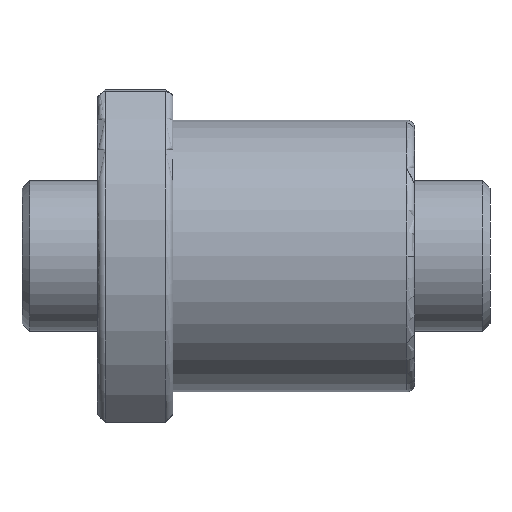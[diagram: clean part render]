
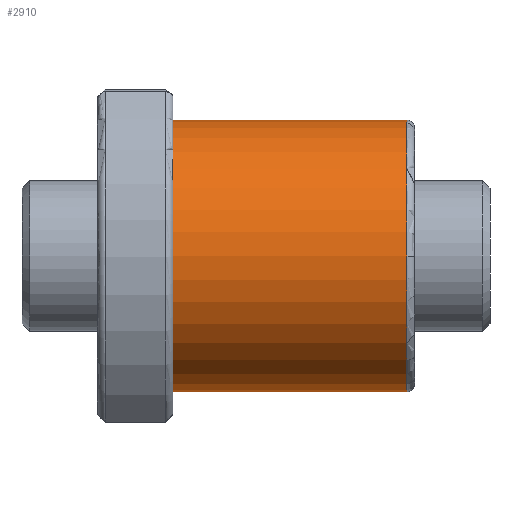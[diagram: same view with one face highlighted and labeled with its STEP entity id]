
A CAD part, front view. The second image highlights one B-rep face of the part: STEP entity #2910.
In plain terms, the highlighted cylindrical face has radius 18 mm (diameter 36 mm), a partial arc.
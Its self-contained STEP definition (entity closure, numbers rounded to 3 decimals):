
#36 = CARTESIAN_POINT ( 'NONE',  ( 10., 0., 0. ) ) ;
#42 = AXIS2_PLACEMENT_3D ( 'NONE', #1289, #401, #5012 ) ;
#147 = CIRCLE ( 'NONE', #4001, 18. ) ;
#190 = CARTESIAN_POINT ( 'NONE',  ( 41., 0., 18. ) ) ;
#276 = ORIENTED_EDGE ( 'NONE', *, *, #440, .T. ) ;
#401 = DIRECTION ( 'NONE',  ( -1., 0., 0. ) ) ;
#440 = EDGE_CURVE ( 'NONE', #3884, #3655, #3806, .T. ) ;
#486 = CARTESIAN_POINT ( 'NONE',  ( 42., 0., 0. ) ) ;
#550 = ORIENTED_EDGE ( 'NONE', *, *, #4850, .T. ) ;
#771 = CIRCLE ( 'NONE', #2482, 18. ) ;
#1049 = DIRECTION ( 'NONE',  ( -1., 0., 0. ) ) ;
#1208 = VECTOR ( 'NONE', #3209, 1000. ) ;
#1235 = AXIS2_PLACEMENT_3D ( 'NONE', #486, #4600, #5020 ) ;
#1289 = CARTESIAN_POINT ( 'NONE',  ( 41., 0., 0. ) ) ;
#1366 = EDGE_CURVE ( 'NONE', #3655, #2216, #147, .T. ) ;
#1560 = CARTESIAN_POINT ( 'NONE',  ( 42., 0., -18. ) ) ;
#2028 = VERTEX_POINT ( 'NONE', #3096 ) ;
#2171 = CIRCLE ( 'NONE', #42, 18. ) ;
#2216 = VERTEX_POINT ( 'NONE', #4798 ) ;
#2314 = CYLINDRICAL_SURFACE ( 'NONE', #1235, 18. ) ;
#2482 = AXIS2_PLACEMENT_3D ( 'NONE', #3508, #1049, #5142 ) ;
#2513 = DIRECTION ( 'NONE',  ( 1., 0., 0. ) ) ;
#2539 = CARTESIAN_POINT ( 'NONE',  ( 42., 0., 18. ) ) ;
#2731 = VECTOR ( 'NONE', #4107, 1000. ) ;
#2910 = ADVANCED_FACE ( 'NONE', ( #4564 ), #2314, .T. ) ;
#2991 = ORIENTED_EDGE ( 'NONE', *, *, #3357, .T. ) ;
#3096 = CARTESIAN_POINT ( 'NONE',  ( 41., -18., 0. ) ) ;
#3209 = DIRECTION ( 'NONE',  ( -1., 0., 0. ) ) ;
#3357 = EDGE_CURVE ( 'NONE', #2028, #3884, #771, .T. ) ;
#3508 = CARTESIAN_POINT ( 'NONE',  ( 41., 0., 0. ) ) ;
#3521 = EDGE_LOOP ( 'NONE', ( #4463, #550, #2991, #276, #4139 ) ) ;
#3655 = VERTEX_POINT ( 'NONE', #4944 ) ;
#3806 = LINE ( 'NONE', #2539, #2731 ) ;
#3884 = VERTEX_POINT ( 'NONE', #190 ) ;
#3939 = CARTESIAN_POINT ( 'NONE',  ( 41., 0., -18. ) ) ;
#4001 = AXIS2_PLACEMENT_3D ( 'NONE', #36, #2513, #4145 ) ;
#4107 = DIRECTION ( 'NONE',  ( -1., 0., 0. ) ) ;
#4139 = ORIENTED_EDGE ( 'NONE', *, *, #1366, .T. ) ;
#4145 = DIRECTION ( 'NONE',  ( 0., 0., 1. ) ) ;
#4463 = ORIENTED_EDGE ( 'NONE', *, *, #5135, .F. ) ;
#4481 = LINE ( 'NONE', #1560, #1208 ) ;
#4564 = FACE_OUTER_BOUND ( 'NONE', #3521, .T. ) ;
#4600 = DIRECTION ( 'NONE',  ( -1., 0., 0. ) ) ;
#4656 = VERTEX_POINT ( 'NONE', #3939 ) ;
#4798 = CARTESIAN_POINT ( 'NONE',  ( 10., 0., -18. ) ) ;
#4850 = EDGE_CURVE ( 'NONE', #4656, #2028, #2171, .T. ) ;
#4944 = CARTESIAN_POINT ( 'NONE',  ( 10., 0., 18. ) ) ;
#5012 = DIRECTION ( 'NONE',  ( 0., 0., 1. ) ) ;
#5020 = DIRECTION ( 'NONE',  ( 0., 0., 1. ) ) ;
#5135 = EDGE_CURVE ( 'NONE', #4656, #2216, #4481, .T. ) ;
#5142 = DIRECTION ( 'NONE',  ( 0., 0., 1. ) ) ;
